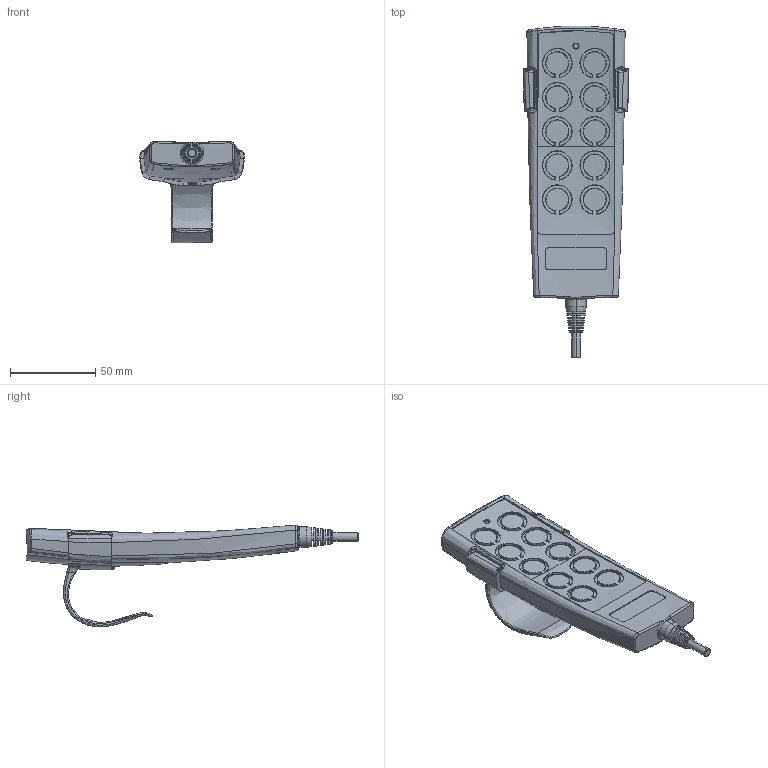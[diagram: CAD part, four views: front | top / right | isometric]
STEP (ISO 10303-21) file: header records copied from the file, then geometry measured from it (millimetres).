
FILE_DESCRIPTION (( 'STEP AP203' ), '1' );
FILE_NAME ('TH7.STEP', '2014-01-16T03:00:39', ( 'stanley' ), ( '' ), 'SwSTEP 2.0', 'SolidWorks 2010', '' );
FILE_SCHEMA (( 'CONFIG_CONTROL_DESIGN' ));
Length unit declared in the file: millimetre
Products named in the file (1): TH7
Bounding box: 61.55 x 194.6 x 59.61 mm (x, y, z)
Volume: 139656.9 mm3; surface area: 40683 mm2
Topology: 1 solids, 14 shells, 737 faces, 1957 edges, 1248 vertices
Faces by surface type: bspline 303, cylinder 179, plane 161, torus 88, cone 6
Entity records: 95009 total; most frequent: CARTESIAN_POINT 79776, ORIENTED_EDGE 3898, EDGE_CURVE 1949, DIRECTION 1926, VERTEX_POINT 1248, B_SPLINE_CURVE_WITH_KNOTS 1226, AXIS2_PLACEMENT_3D 769, EDGE_LOOP 769
